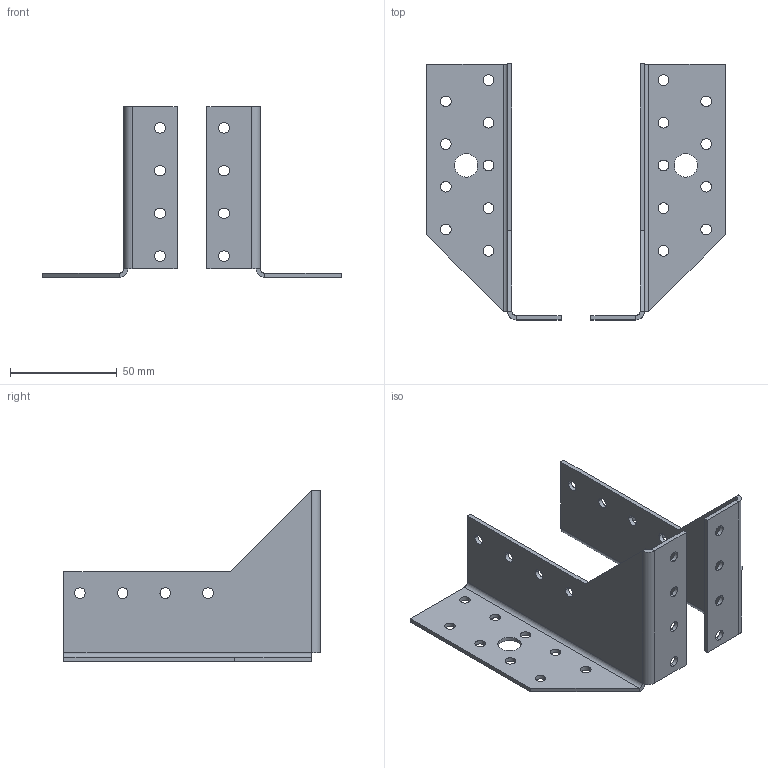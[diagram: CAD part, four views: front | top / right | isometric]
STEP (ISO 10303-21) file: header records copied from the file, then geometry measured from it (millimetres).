
FILE_DESCRIPTION (( 'STEP AP203' ), '1' );
FILE_NAME ('122.STEP', '2021-04-18T12:50:15', ( '' ), ( '' ), 'SwSTEP 2.0', 'SolidWorks 2013', '' );
FILE_SCHEMA (( 'CONFIG_CONTROL_DESIGN' ));
Length unit declared in the file: millimetre
Products named in the file (1): 122
Bounding box: 140 x 120 x 80 mm (x, y, z)
Volume: 42919.8 mm3; surface area: 46020.2 mm2
Topology: 2 solids, 2 shells, 118 faces, 310 edges, 196 vertices
Faces by surface type: cylinder 80, plane 38
Entity records: 3897 total; most frequent: DIRECTION 708, CARTESIAN_POINT 625, ORIENTED_EDGE 620, EDGE_CURVE 310, AXIS2_PLACEMENT_3D 279, VERTEX_POINT 196, EDGE_LOOP 190, CIRCLE 160
